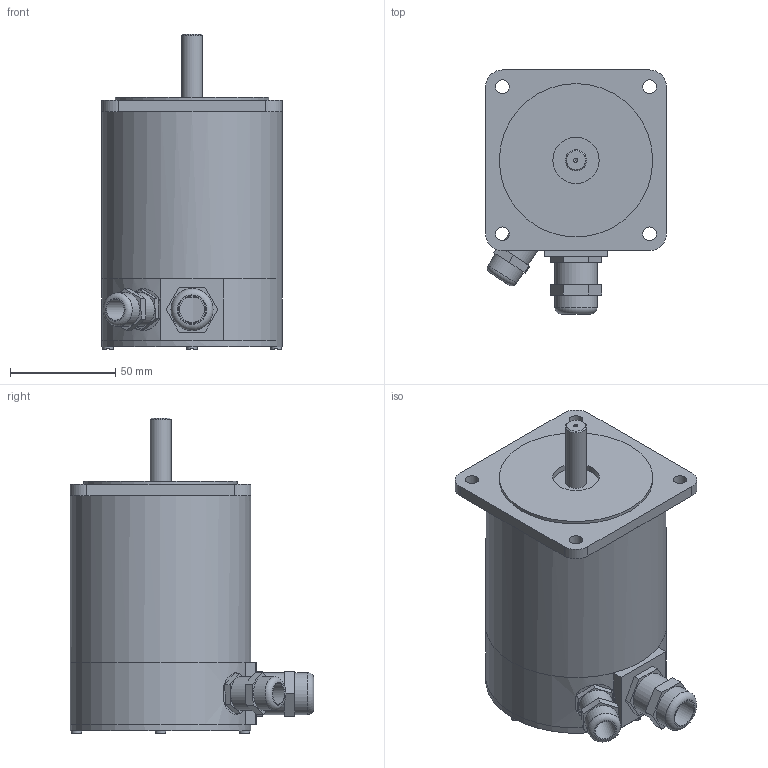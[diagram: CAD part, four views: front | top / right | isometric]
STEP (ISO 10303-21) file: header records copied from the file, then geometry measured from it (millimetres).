
FILE_DESCRIPTION((''),'2;1');
FILE_NAME('C:\Users\Reinhard\Documents\Inventor\Testschrittmotor\SM87\SM87.2-E50-KV.stp','2012-11-14T20:27:46',('Reinhard'),(''),'Autodesk Inventor 2012','Autodesk Inventor 2012','');
FILE_SCHEMA(('CONFIG_CONTROL_DESIGN'));
Length unit declared in the file: millimetre
Products named in the file (1): SM87
Bounding box: 86 x 115.99 x 150.4 mm (x, y, z)
Volume: 146824.8 mm3; surface area: 93547.9 mm2
Topology: 2 solids, 2 shells, 137 faces, 310 edges, 201 vertices
Faces by surface type: plane 84, cylinder 46, cone 3, torus 2, sphere 2
Full cylindrical faces by diameter (mm): 2 x1, 5 x4, 6.6 x4, 10 x2, 12 x2, 13 x2, 15 x1, 16 x2, 18.376 x1, 20 x3, 22 x1, 73 x1, 78 x2, 82 x1, 86 x2
Entity records: 3735 total; most frequent: CARTESIAN_POINT 724, DIRECTION 635, ORIENTED_EDGE 532, EDGE_CURVE 266, AXIS2_PLACEMENT_3D 244, EDGE_LOOP 209, VERTEX_POINT 191, VECTOR 147
